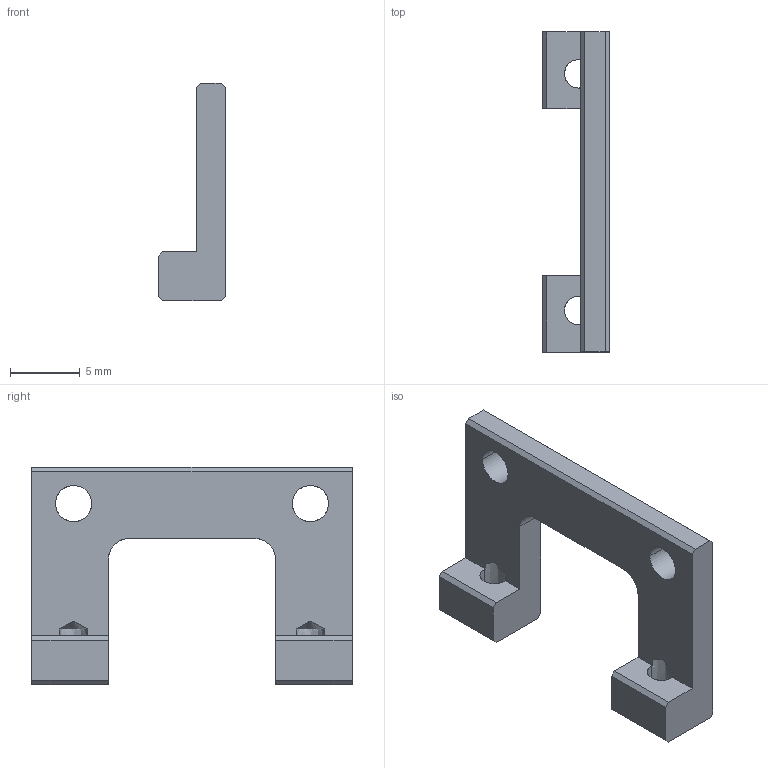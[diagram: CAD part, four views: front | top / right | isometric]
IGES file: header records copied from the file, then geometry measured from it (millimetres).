
Global section: file name: C:\Users\Knabe\Documents\Classes\8 Semester 8\DARwIn\Deliverables\DARwIn OP\DARwIn OP Part Files\OP 3D CAD Files\3D IGS\15_FR07_X102.igs; native system: NX V7.0; preprocessor: SIEMENS PLM Software NX 7.0; date: 20110525.180906; units: millimetre
Bounding box: 4.8 x 23 x 15.6 mm (x, y, z)
Surface area: 800.8 mm2 (no closed solid volume)
Topology: 0 solids, 0 shells, 42 faces, 286 edges, 286 vertices
Faces by surface type: bspline 42
